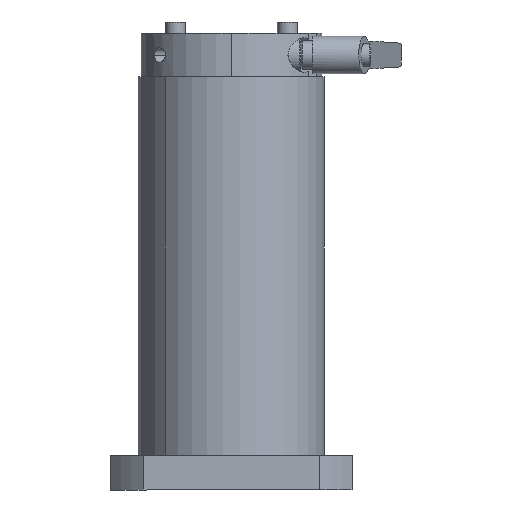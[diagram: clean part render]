
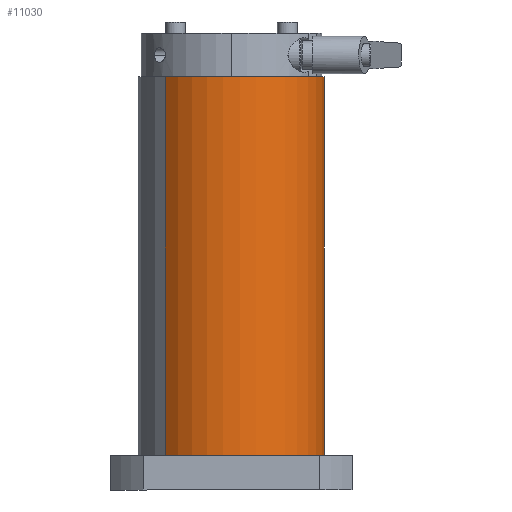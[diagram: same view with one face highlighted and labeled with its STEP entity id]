
A CAD part, front view. The second image highlights one B-rep face of the part: STEP entity #11030.
In plain terms, the highlighted cylindrical face has radius 32.5 mm (diameter 65 mm), a partial arc.
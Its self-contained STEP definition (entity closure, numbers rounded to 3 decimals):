
#191 = CARTESIAN_POINT ( 'NONE',  ( 2.559, 2.033, 87.078 ) ) ;
#241 = AXIS2_PLACEMENT_3D ( 'NONE', #6026, #9704, #10970 ) ;
#246 = DIRECTION ( 'NONE',  ( 0., 0., -1. ) ) ;
#713 = VERTEX_POINT ( 'NONE', #10288 ) ;
#1046 = AXIS2_PLACEMENT_3D ( 'NONE', #191, #246, #1891 ) ;
#1091 = DIRECTION ( 'NONE',  ( 0., 0., -1. ) ) ;
#1516 = VERTEX_POINT ( 'NONE', #9200 ) ;
#1657 = DIRECTION ( 'NONE',  ( 0.707, 0.707, 0. ) ) ;
#1891 = DIRECTION ( 'NONE',  ( 0.707, 0.707, 0. ) ) ;
#2140 = LINE ( 'NONE', #5635, #3007 ) ;
#2220 = CARTESIAN_POINT ( 'NONE',  ( -20.421, -20.948, 153.078 ) ) ;
#2616 = CARTESIAN_POINT ( 'NONE',  ( -20.421, -20.948, 219.078 ) ) ;
#2710 = FACE_OUTER_BOUND ( 'NONE', #11114, .T. ) ;
#2720 = ORIENTED_EDGE ( 'NONE', *, *, #8842, .F. ) ;
#2935 = AXIS2_PLACEMENT_3D ( 'NONE', #8584, #5200, #1657 ) ;
#3007 = VECTOR ( 'NONE', #4609, 1000. ) ;
#3543 = VERTEX_POINT ( 'NONE', #2616 ) ;
#3947 = CARTESIAN_POINT ( 'NONE',  ( -20.421, -20.948, 87.078 ) ) ;
#4206 = EDGE_CURVE ( 'NONE', #3543, #7704, #10071, .T. ) ;
#4374 = VECTOR ( 'NONE', #1091, 1000. ) ;
#4609 = DIRECTION ( 'NONE',  ( 0., 0., -1. ) ) ;
#4672 = EDGE_CURVE ( 'NONE', #713, #3543, #6934, .T. ) ;
#5200 = DIRECTION ( 'NONE',  ( 0., 0., -1. ) ) ;
#5427 = EDGE_CURVE ( 'NONE', #1516, #7704, #5977, .T. ) ;
#5635 = CARTESIAN_POINT ( 'NONE',  ( 25.54, 25.014, 153.078 ) ) ;
#5977 = CIRCLE ( 'NONE', #1046, 32.5 ) ;
#6026 = CARTESIAN_POINT ( 'NONE',  ( 2.559, 2.033, 153.078 ) ) ;
#6934 = CIRCLE ( 'NONE', #2935, 32.5 ) ;
#7704 = VERTEX_POINT ( 'NONE', #3947 ) ;
#8504 = ORIENTED_EDGE ( 'NONE', *, *, #4206, .T. ) ;
#8584 = CARTESIAN_POINT ( 'NONE',  ( 2.559, 2.033, 219.078 ) ) ;
#8648 = ORIENTED_EDGE ( 'NONE', *, *, #4672, .T. ) ;
#8842 = EDGE_CURVE ( 'NONE', #713, #1516, #2140, .T. ) ;
#9200 = CARTESIAN_POINT ( 'NONE',  ( 25.54, 25.014, 87.078 ) ) ;
#9704 = DIRECTION ( 'NONE',  ( 0., 0., -1. ) ) ;
#10071 = LINE ( 'NONE', #2220, #4374 ) ;
#10288 = CARTESIAN_POINT ( 'NONE',  ( 25.54, 25.014, 219.078 ) ) ;
#10908 = ORIENTED_EDGE ( 'NONE', *, *, #5427, .F. ) ;
#10970 = DIRECTION ( 'NONE',  ( 0.707, 0.707, 0. ) ) ;
#11030 = ADVANCED_FACE ( 'NONE', ( #2710 ), #11203, .T. ) ;
#11114 = EDGE_LOOP ( 'NONE', ( #8648, #8504, #10908, #2720 ) ) ;
#11203 = CYLINDRICAL_SURFACE ( 'NONE', #241, 32.5 ) ;
